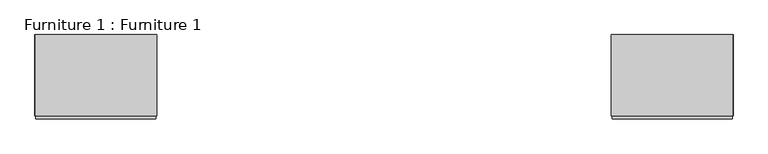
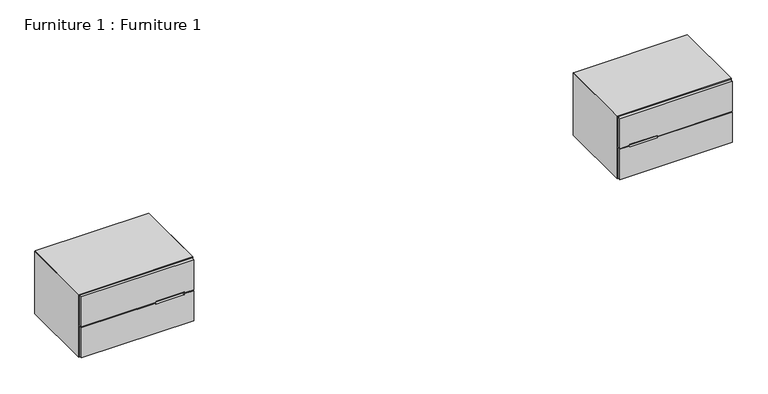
"""IFC4 building model written with IfcOpenShell, lengths in millimetres: furniture geometry, Furniture 1 : Furniture 1."""

from ifc_helpers import new_model, si_unit, frame, origin, place, context, project, spatial, polyline, outline, extrude, faceted_brep, source, transform, mapped, element, save


def furniture_1_furniture_1_7f8864ea(model_context):
    return source(origin(), model_context, "Body", "SolidModel", [
        extrude(outline(polyline([(482.4055339, 1658.5768874), (1051.7453294, 1658.5768874), (1051.7453294, 1642.5768874), (482.4055339, 1642.5768874), (482.4055339, 1658.5768874)])), frame((0.0, 0.0, 16.0), z_axis=(0.0, 0.0, 1.0), x_axis=(1.0, 0.0, 0.0)), (0.0, 0.0, 1.0), 318.0),
        extrude(outline(polyline([(177.5, 471.4055339), (177.5, 521.4055339), (183.0, 521.4055339), (183.0, 671.4055339), (177.5, 671.4055339), (177.5, 1062.7453294), (345.0, 1062.7453294), (345.0, 471.4055339), (177.5, 471.4055339)])), frame((0.0, 1242.5768874, 0.0), z_axis=(0.0, 1.0, 0.0), x_axis=(0.0, 0.0, 1.0)), (0.0, 0.0, 1.0), 16.0),
        extrude(outline(polyline([(172.5, 1062.7453294), (172.5, 671.4055339), (167.0, 671.4055339), (167.0, 521.4055339), (172.5, 521.4055339), (172.5, 471.4055339), (5.0, 471.4055339), (5.0, 1062.7453294), (172.5, 1062.7453294)])), frame((0.0, 1242.5768874, 0.0), z_axis=(0.0, 1.0, 0.0), x_axis=(0.0, 0.0, 1.0)), (0.0, 0.0, 1.0), 16.0),
        extrude(outline(polyline([(0.7071068, 466.4055339), (16.7071068, 482.4055339), (333.2928932, 482.4055339), (349.2928932, 466.4055339), (0.7071068, 466.4055339)])), frame((0.0, 1258.5768874, 0.0), z_axis=(0.0, 1.0, 0.0), x_axis=(0.0, 0.0, 1.0)), (0.0, 0.0, 1.0), 400.0),
        extrude(outline(polyline([(0.0, 467.1126407), (0.0, 1067.0382226), (16.0, 1051.0382226), (16.0, 483.1126407), (0.0, 467.1126407)])), frame((0.0, 1258.5768874, 0.0), z_axis=(0.0, 1.0, 0.0), x_axis=(0.0, 0.0, 1.0)), (0.0, 0.0, 1.0), 400.0),
        extrude(outline(polyline([(350.0, 467.1126407), (334.0, 483.1126407), (334.0, 1051.0382226), (350.0, 1067.0382226), (350.0, 467.1126407)])), frame((0.0, 1258.5768874, 0.0), z_axis=(0.0, 1.0, 0.0), x_axis=(0.0, 0.0, 1.0)), (0.0, 0.0, 1.0), 400.0),
        extrude(outline(polyline([(0.7071068, 1067.7453294), (349.2928932, 1067.7453294), (333.2928932, 1051.7453294), (16.7071068, 1051.7453294), (0.7071068, 1067.7453294)])), frame((0.0, 1258.5768874, 0.0), z_axis=(0.0, 1.0, 0.0), x_axis=(0.0, 0.0, 1.0)), (0.0, 0.0, 1.0), 400.0),
        extrude(outline(polyline([(1050.7453294, 1258.5768874), (483.4055339, 1258.5768874), (483.4055339, 1658.5768874), (1050.7453294, 1658.5768874), (1050.7453294, 1258.5768874)])), frame((0.0, 0.0, 167.0), z_axis=(0.0, 0.0, 1.0), x_axis=(1.0, 0.0, 0.0)), (0.0, 0.0, 1.0), 16.0),
        faceted_brep([(-1787.5480538, 1658.5768874, 16.0), (-1788.2551606, 1658.5768874, 16.0), (-1772.2551606, 1658.5768874, 0.0), (-2372.1807425, 1658.5768874, 0.0), (-2356.1807425, 1658.5768874, 16.0), (-2356.8878493, 1658.5768874, 16.0), (-2356.8878493, 1658.5768874, 16.7071068), (-2372.8878493, 1658.5768874, 0.7071068), (-2372.8878493, 1658.5768874, 349.2928932), (-2356.8878493, 1658.5768874, 333.2928932), (-2356.8878493, 1658.5768874, 334.0), (-2356.1807425, 1658.5768874, 334.0), (-2372.1807425, 1658.5768874, 350.0), (-1772.2551606, 1658.5768874, 350.0), (-1788.2551606, 1658.5768874, 334.0), (-1787.5480538, 1658.5768874, 334.0), (-1787.5480538, 1658.5768874, 333.2928932), (-1771.5480538, 1658.5768874, 349.2928932), (-1771.5480538, 1658.5768874, 0.7071068), (-1787.5480538, 1658.5768874, 16.7071068), (-1787.5480538, 1642.5768874, 333.2928932), (-1787.5480538, 1642.5768874, 334.0), (-1788.2551606, 1642.5768874, 334.0), (-2356.1807425, 1642.5768874, 334.0), (-2356.8878493, 1642.5768874, 334.0), (-2356.8878493, 1642.5768874, 333.2928932), (-2356.8878493, 1642.5768874, 16.7071068), (-2356.8878493, 1642.5768874, 16.0), (-2356.1807425, 1642.5768874, 16.0), (-1788.2551606, 1642.5768874, 16.0), (-1787.5480538, 1642.5768874, 16.0), (-1787.5480538, 1642.5768874, 16.7071068), (-2355.8878493, 1642.5768874, 183.0), (-1788.5480538, 1642.5768874, 183.0), (-1788.5480538, 1642.5768874, 167.0), (-2355.8878493, 1642.5768874, 167.0), (-1771.5480538, 1258.5768874, 0.7071068), (-1771.5480538, 1258.5768874, 349.2928932), (-1787.5480538, 1258.5768874, 333.2928932), (-1787.5480538, 1258.5768874, 16.7071068), (-1772.2551606, 1258.5768874, 0.0), (-1788.2551606, 1258.5768874, 16.0), (-2356.1807425, 1258.5768874, 16.0), (-2372.1807425, 1258.5768874, 0.0), (-1772.2551606, 1258.5768874, 350.0), (-2372.1807425, 1258.5768874, 350.0), (-2356.1807425, 1258.5768874, 334.0), (-1788.2551606, 1258.5768874, 334.0), (-2372.8878493, 1258.5768874, 0.7071068), (-2356.8878493, 1258.5768874, 16.7071068), (-2356.8878493, 1258.5768874, 333.2928932), (-2372.8878493, 1258.5768874, 349.2928932), (-1788.5480538, 1258.5768874, 183.0), (-2355.8878493, 1258.5768874, 183.0), (-2355.8878493, 1258.5768874, 167.0), (-1788.5480538, 1258.5768874, 167.0)], [[[0, 1, 2, 3, 4, 5, 6, 7, 8, 9, 10, 11, 12, 13, 14, 15, 16, 17, 18, 19]], [[20, 21, 22, 23, 24, 25, 26, 27, 28, 29, 30, 31], [32, 33, 34, 35]], [[0, 30, 29, 1]], [[27, 5, 4, 28]], [[5, 27, 26, 6]], [[24, 10, 9, 25]], [[10, 24, 23, 11]], [[21, 15, 14, 22]], [[30, 0, 19, 31]], [[15, 21, 20, 16]], [[36, 37, 38, 39]], [[40, 41, 42, 43]], [[44, 45, 46, 47]], [[48, 49, 50, 51]], [[52, 53, 54, 55]], [[37, 36, 18, 17]], [[38, 37, 17, 16, 20]], [[39, 38, 20, 31]], [[36, 39, 31, 19, 18]], [[41, 40, 2, 1, 29]], [[42, 41, 29, 28]], [[43, 42, 28, 4, 3]], [[40, 43, 3, 2]], [[45, 44, 13, 12]], [[46, 45, 12, 11, 23]], [[47, 46, 23, 22]], [[44, 47, 22, 14, 13]], [[49, 48, 7, 6, 26]], [[50, 49, 26, 25]], [[51, 50, 25, 9, 8]], [[48, 51, 8, 7]], [[53, 52, 33, 32]], [[54, 53, 32, 35]], [[55, 54, 35, 34]], [[52, 55, 34, 33]]]),
        extrude(outline(polyline([(177.5, -1776.5480538), (345.0, -1776.5480538), (345.0, -2367.8878493), (177.5, -2367.8878493), (177.5, -1976.5480538), (183.0, -1976.5480538), (183.0, -1826.5480538), (177.5, -1826.5480538), (177.5, -1776.5480538)])), frame((0.0, 1242.5768874, 0.0), z_axis=(0.0, 1.0, 0.0), x_axis=(0.0, 0.0, 1.0)), (0.0, 0.0, 1.0), 16.0),
        extrude(outline(polyline([(172.5, -2367.8878493), (5.0, -2367.8878493), (5.0, -1776.5480538), (172.5, -1776.5480538), (172.5, -1826.5480538), (167.0, -1826.5480538), (167.0, -1976.5480538), (172.5, -1976.5480538), (172.5, -2367.8878493)])), frame((0.0, 1242.5768874, 0.0), z_axis=(0.0, 1.0, 0.0), x_axis=(0.0, 0.0, 1.0)), (0.0, 0.0, 1.0), 16.0),
    ])


if __name__ == "__main__":
    model = new_model("IFC4")
    model_context = context("Model", 3, world=origin())
    ifc_project = project(units=[si_unit("LENGTHUNIT", "METRE", prefix="MILLI")], contexts=[model_context])
    site = spatial("IfcSite", under=ifc_project)
    building = spatial("IfcBuilding", under=site)
    placement = place(None, origin())
    furniture_1_furniture_1_shape = furniture_1_furniture_1_7f8864ea(model_context)
    element("IfcFurniture", 1, ObjectType="Furniture 1 : Furniture 1", at=placement, inside=building, context=model_context, shape_type="MappedRepresentation", body=[
        mapped(furniture_1_furniture_1_shape, transform((0.0, 0.0, 0.0), x_axis=(1.0, 0.0, 0.0), y_axis=(0.0, 1.0, 0.0), z_axis=(0.0, 0.0, 1.0))),
    ])
    save(model, "model.ifc")
